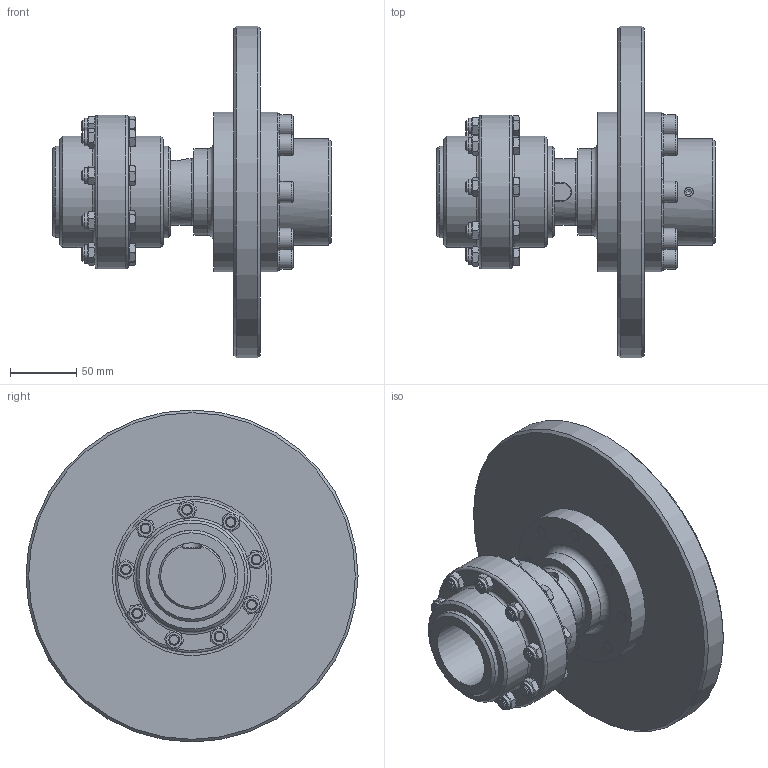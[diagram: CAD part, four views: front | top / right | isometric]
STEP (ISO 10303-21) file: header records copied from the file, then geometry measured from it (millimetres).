
FILE_DESCRIPTION(/* description */ (''),/* implementation_level */ '2;1');
FILE_NAME(/* name */ 'C:\Users\vlakrc01\Desktop\COUPLINGS\02 GKM STEP\STEP\66377.stp',/* time_stamp */ '2017-03-15T10:07:22+01:00',/* author */ ('vlakrc01'),/* organization */ (''),/* preprocessor_version */ 'ST-DEVELOPER v16.1',/* originating_system */ 'Autodesk Inventor 2016',/* authorisation */ '');
FILE_SCHEMA (('AUTOMOTIVE_DESIGN { 1 0 10303 214 3 1 1 }'));
Length unit declared in the file: millimetre
Products named in the file (1): 66377_Shrinkwrap_1
Bounding box: 210 x 250 x 250 mm (x, y, z)
Volume: 1949523.1 mm3; surface area: 290312.7 mm2
Topology: 1 solids, 22 shells, 580 faces, 1316 edges, 851 vertices
Faces by surface type: plane 308, cylinder 128, cone 124, torus 18, bspline 2
Full cylindrical faces by diameter (mm): 6.647 x1, 7.323 x9, 8 x18, 8.8 x9, 10 x8, 10.5 x8, 11 x8, 11.4 x9, 11.6 x9, 16 x8, 18 x8, 50 x3, 65 x1, 69 x8, 70 x3, 75 x2, 77.5 x2, 80 x1, 81.5 x1, 84 x2, 116 x1, 120 x2, 250 x1
Entity records: 15075 total; most frequent: CARTESIAN_POINT 3192, DIRECTION 2305, ORIENTED_EDGE 2054, EDGE_CURVE 1027, AXIS2_PLACEMENT_3D 1003, EDGE_LOOP 920, VERTEX_POINT 769, STYLED_ITEM 581
